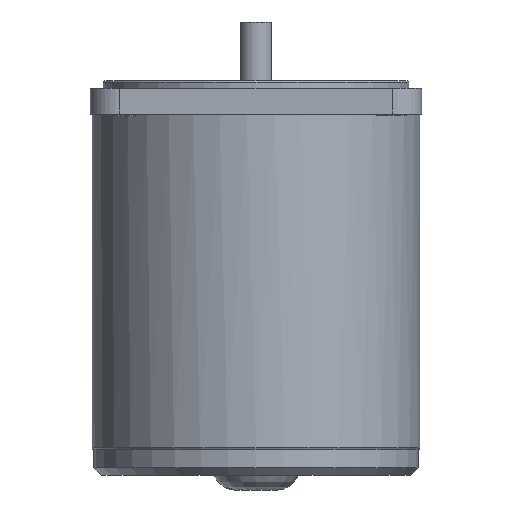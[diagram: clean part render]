
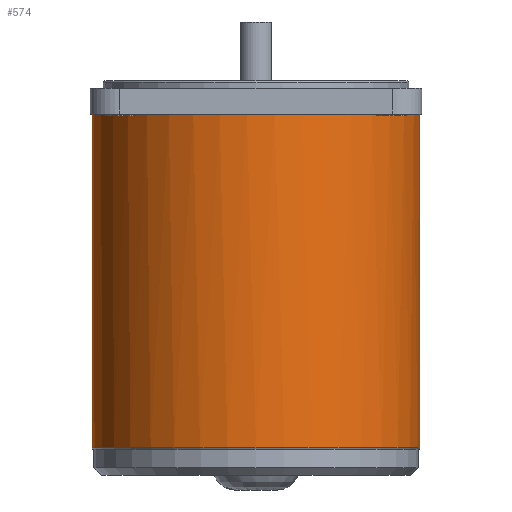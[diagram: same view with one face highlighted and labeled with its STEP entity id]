
A CAD part, front view. The second image highlights one B-rep face of the part: STEP entity #574.
In plain terms, the highlighted cylindrical face has radius 44.5 mm (diameter 89 mm), a full revolution.
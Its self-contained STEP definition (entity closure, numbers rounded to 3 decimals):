
#306=CARTESIAN_POINT('',(-27.689,34.836,98.0));
#307=VERTEX_POINT('',#306);
#323=CARTESIAN_POINT('',(-27.689,34.836,37.));
#324=VERTEX_POINT('',#323);
#332=CARTESIAN_POINT('',(-27.689,34.836,37.));
#333=DIRECTION('',(0.0,0.0,1.0));
#334=VECTOR('',#333,61.);
#335=LINE('',#332,#334);
#336=EDGE_CURVE('',#324,#307,#335,.T.);
#384=CARTESIAN_POINT('',(-26.7,35.6,36.0));
#385=VERTEX_POINT('',#384);
#393=CARTESIAN_POINT('',(-26.7,35.6,36.0));
#394=CARTESIAN_POINT('',(-26.9,35.45,36.0));
#395=CARTESIAN_POINT('',(-27.233,35.195,36.102));
#396=CARTESIAN_POINT('',(-27.597,34.909,36.495));
#397=CARTESIAN_POINT('',(-27.689,34.836,36.831));
#398=CARTESIAN_POINT('',(-27.689,34.836,37.));
#399=B_SPLINE_CURVE_WITH_KNOTS('',3,(#393,#394,#395,#396,#397,#398),.UNSPECIFIED.,.F.,.U.,(4,1,1,4),(0.0,0.076,0.127,0.177),.UNSPECIFIED.);
#400=EDGE_CURVE('',#385,#324,#399,.T.);
#412=CARTESIAN_POINT('',(26.7,35.6,36.0));
#413=VERTEX_POINT('',#412);
#421=CARTESIAN_POINT('',(0.0,0.0,36.0));
#422=DIRECTION('',(0.0,0.0,1.0));
#423=DIRECTION('',(0.0,1.0,0.0));
#424=AXIS2_PLACEMENT_3D('',#421,#422,#423);
#425=CIRCLE('',#424,44.5);
#426=EDGE_CURVE('',#413,#385,#425,.T.);
#491=CARTESIAN_POINT('',(27.689,34.836,37.));
#492=VERTEX_POINT('',#491);
#500=CARTESIAN_POINT('',(27.689,34.836,37.));
#501=CARTESIAN_POINT('',(27.689,34.836,36.831));
#502=CARTESIAN_POINT('',(27.598,34.909,36.495));
#503=CARTESIAN_POINT('',(27.234,35.195,36.102));
#504=CARTESIAN_POINT('',(26.901,35.45,36.0));
#505=CARTESIAN_POINT('',(26.7,35.6,36.0));
#506=B_SPLINE_CURVE_WITH_KNOTS('',3,(#500,#501,#502,#503,#504,#505),.UNSPECIFIED.,.F.,.U.,(4,1,1,4),(0.0,0.051,0.101,0.177),.UNSPECIFIED.);
#507=EDGE_CURVE('',#492,#413,#506,.T.);
#517=CARTESIAN_POINT('',(27.689,34.836,98.0));
#518=VERTEX_POINT('',#517);
#528=CARTESIAN_POINT('',(27.689,34.836,98.0));
#529=DIRECTION('',(0.0,0.0,-1.0));
#530=VECTOR('',#529,61.);
#531=LINE('',#528,#530);
#532=EDGE_CURVE('',#518,#492,#531,.T.);
#544=CARTESIAN_POINT('',(0.0,0.0,0.0));
#545=DIRECTION('',(0.0,0.0,1.0));
#546=DIRECTION('',(-1.0,0.0,0.0));
#547=AXIS2_PLACEMENT_3D('',#544,#545,#546);
#548=CYLINDRICAL_SURFACE('',#547,44.5);
#549=CARTESIAN_POINT('',(-44.5,0.,7.5));
#550=VERTEX_POINT('',#549);
#551=CARTESIAN_POINT('',(0.0,0.0,7.5));
#552=DIRECTION('',(0.0,0.0,-1.0));
#553=DIRECTION('',(1.0,0.0,0.0));
#554=AXIS2_PLACEMENT_3D('',#551,#552,#553);
#555=CIRCLE('',#554,44.5);
#556=EDGE_CURVE('',#550,#550,#555,.T.);
#557=ORIENTED_EDGE('',*,*,#556,.F.);
#558=EDGE_LOOP('',(#557));
#559=FACE_OUTER_BOUND('',#558,.T.);
#560=ORIENTED_EDGE('',*,*,#336,.F.);
#561=ORIENTED_EDGE('',*,*,#400,.F.);
#562=ORIENTED_EDGE('',*,*,#426,.F.);
#563=ORIENTED_EDGE('',*,*,#507,.F.);
#564=ORIENTED_EDGE('',*,*,#532,.F.);
#565=CARTESIAN_POINT('',(0.0,0.0,98.0));
#566=DIRECTION('',(0.0,0.0,-1.0));
#567=DIRECTION('',(-1.0,0.0,0.0));
#568=AXIS2_PLACEMENT_3D('',#565,#566,#567);
#569=CIRCLE('',#568,44.5);
#570=EDGE_CURVE('',#518,#307,#569,.T.);
#571=ORIENTED_EDGE('',*,*,#570,.T.);
#572=EDGE_LOOP('',(#560,#561,#562,#563,#564,#571));
#573=FACE_BOUND('',#572,.T.);
#574=ADVANCED_FACE('',(#559,#573),#548,.T.);
